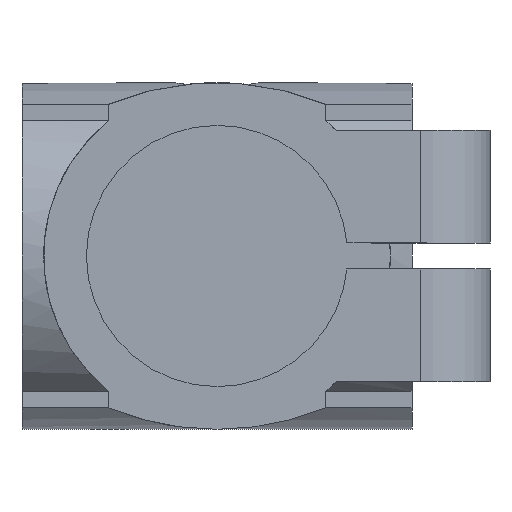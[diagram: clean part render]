
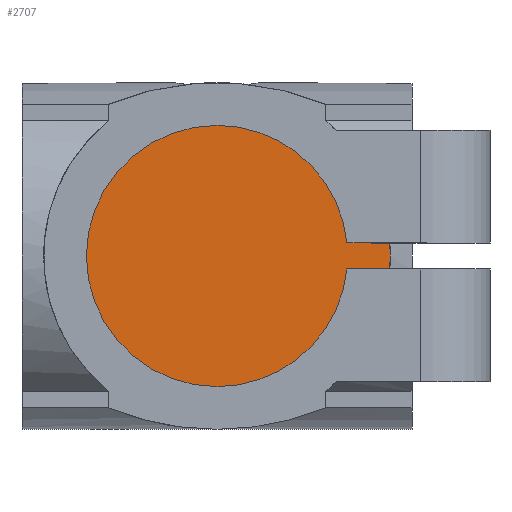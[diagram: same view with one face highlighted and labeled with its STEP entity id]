
A CAD part, front view. The second image highlights one B-rep face of the part: STEP entity #2707.
In plain terms, the highlighted planar face has unit normal (0, -1, 0).
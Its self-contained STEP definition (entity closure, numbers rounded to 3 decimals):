
#7 = CARTESIAN_POINT ( 'NONE',  ( 0., 80., 30.135 ) ) ;
#8 = CARTESIAN_POINT ( 'NONE',  ( 0., 80., -30.135 ) ) ;
#9 = DIRECTION ( 'NONE',  ( 0., 0., -1. ) ) ;
#10 = DIRECTION ( 'NONE',  ( 0., 1., 0. ) ) ;
#11 = CARTESIAN_POINT ( 'NONE',  ( 0., 80., 0. ) ) ;
#12 = AXIS2_PLACEMENT_3D ( 'NONE', #11, #10, #9 ) ;
#18 = CIRCLE ( 'NONE', #12, 30.135 ) ;
#188 = CARTESIAN_POINT ( 'NONE',  ( 0., 80., 0. ) ) ;
#189 = AXIS2_PLACEMENT_3D ( 'NONE', #188, #354, #399 ) ;
#195 = CIRCLE ( 'NONE', #189, 30.135 ) ;
#347 = CARTESIAN_POINT ( 'NONE',  ( 29.985, 80., -3. ) ) ;
#354 = DIRECTION ( 'NONE',  ( 0., 1., 0. ) ) ;
#399 = DIRECTION ( 'NONE',  ( 0., 0., -1. ) ) ;
#608 = CIRCLE ( 'NONE', #675, 40. ) ;
#675 = AXIS2_PLACEMENT_3D ( 'NONE', #762, #771, #770 ) ;
#703 = CIRCLE ( 'NONE', #706, 30.135 ) ;
#705 = CARTESIAN_POINT ( 'NONE',  ( 0., 80., 0. ) ) ;
#706 = AXIS2_PLACEMENT_3D ( 'NONE', #705, #710, #709 ) ;
#708 = CARTESIAN_POINT ( 'NONE',  ( 29.985, 80., 3. ) ) ;
#709 = DIRECTION ( 'NONE',  ( 0., 0., -1. ) ) ;
#710 = DIRECTION ( 'NONE',  ( 0., 1., 0. ) ) ;
#762 = CARTESIAN_POINT ( 'NONE',  ( 0., 80., 0. ) ) ;
#770 = DIRECTION ( 'NONE',  ( 0., 0., -1. ) ) ;
#771 = DIRECTION ( 'NONE',  ( 0., 1., 0. ) ) ;
#961 = DIRECTION ( 'NONE',  ( 0., 0., -1. ) ) ;
#962 = DIRECTION ( 'NONE',  ( 0., 1., 0. ) ) ;
#963 = CARTESIAN_POINT ( 'NONE',  ( 0., 80., 0. ) ) ;
#964 = AXIS2_PLACEMENT_3D ( 'NONE', #963, #962, #961 ) ;
#965 = CIRCLE ( 'NONE', #964, 40. ) ;
#1084 = CARTESIAN_POINT ( 'NONE',  ( 40., 80., 0. ) ) ;
#1090 = DIRECTION ( 'NONE',  ( -1., 0., 0. ) ) ;
#1091 = VECTOR ( 'NONE', #1090, 1000. ) ;
#1092 = CARTESIAN_POINT ( 'NONE',  ( 0., 80., -3. ) ) ;
#1093 = LINE ( 'NONE', #1092, #1091 ) ;
#1276 = PLANE ( 'NONE',  #1425 ) ;
#1384 = CARTESIAN_POINT ( 'NONE',  ( 39.887, 80., -3. ) ) ;
#1390 = CARTESIAN_POINT ( 'NONE',  ( 39.887, 80., 3. ) ) ;
#1391 = DIRECTION ( 'NONE',  ( 1., 0., 0. ) ) ;
#1392 = VECTOR ( 'NONE', #1391, 1000. ) ;
#1393 = CARTESIAN_POINT ( 'NONE',  ( 0., 80., 3. ) ) ;
#1394 = LINE ( 'NONE', #1393, #1392 ) ;
#1421 = DIRECTION ( 'NONE',  ( 0., 0., 1. ) ) ;
#1422 = DIRECTION ( 'NONE',  ( 0., 1., 0. ) ) ;
#1423 = CARTESIAN_POINT ( 'NONE',  ( 0., 80., 0. ) ) ;
#1425 = AXIS2_PLACEMENT_3D ( 'NONE', #1423, #1422, #1421 ) ;
#1426 = FACE_OUTER_BOUND ( 'NONE', #2708, .T. ) ;
#2063 = EDGE_CURVE ( 'NONE', #2064, #2065, #18, .T. ) ;
#2064 = VERTEX_POINT ( 'NONE', #8 ) ;
#2065 = VERTEX_POINT ( 'NONE', #7 ) ;
#2094 = EDGE_CURVE ( 'NONE', #2095, #2064, #195, .T. ) ;
#2095 = VERTEX_POINT ( 'NONE', #347 ) ;
#2329 = EDGE_CURVE ( 'NONE', #2065, #2330, #703, .T. ) ;
#2330 = VERTEX_POINT ( 'NONE', #708 ) ;
#2492 = ORIENTED_EDGE ( 'NONE', *, *, #2521, .F. ) ;
#2507 = ORIENTED_EDGE ( 'NONE', *, *, #2063, .F. ) ;
#2521 = EDGE_CURVE ( 'NONE', #2681, #2580, #965, .T. ) ;
#2523 = EDGE_CURVE ( 'NONE', #2580, #2685, #608, .T. ) ;
#2566 = EDGE_CURVE ( 'NONE', #2685, #2095, #1093, .T. ) ;
#2580 = VERTEX_POINT ( 'NONE', #1084 ) ;
#2581 = ORIENTED_EDGE ( 'NONE', *, *, #2523, .F. ) ;
#2582 = ORIENTED_EDGE ( 'NONE', *, *, #2566, .F. ) ;
#2608 = ORIENTED_EDGE ( 'NONE', *, *, #2094, .F. ) ;
#2680 = EDGE_CURVE ( 'NONE', #2330, #2681, #1394, .T. ) ;
#2681 = VERTEX_POINT ( 'NONE', #1390 ) ;
#2685 = VERTEX_POINT ( 'NONE', #1384 ) ;
#2707 = ADVANCED_FACE ( 'NONE', ( #1426 ), #1276, .F. ) ;
#2708 = EDGE_LOOP ( 'NONE', ( #2709, #2710, #2507, #2608, #2582, #2581, #2492 ) ) ;
#2709 = ORIENTED_EDGE ( 'NONE', *, *, #2680, .F. ) ;
#2710 = ORIENTED_EDGE ( 'NONE', *, *, #2329, .F. ) ;
